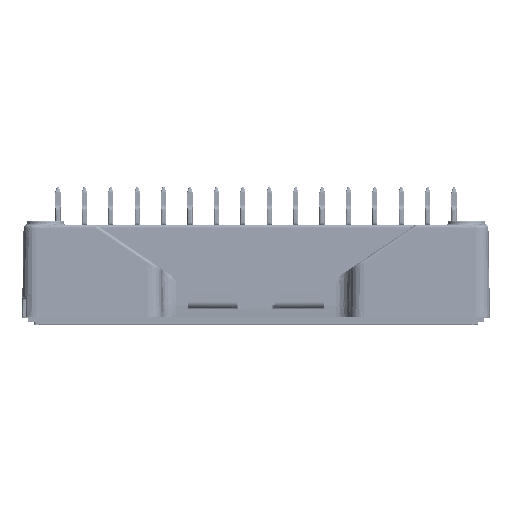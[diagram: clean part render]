
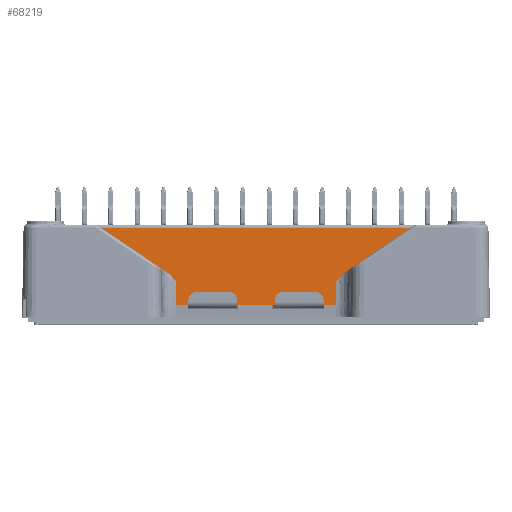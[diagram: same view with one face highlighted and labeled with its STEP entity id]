
A CAD part, top view. The second image highlights one B-rep face of the part: STEP entity #68219.
In plain terms, the highlighted planar face has unit normal (0, 0.018, 1).
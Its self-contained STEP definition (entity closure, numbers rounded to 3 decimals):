
#133 = CARTESIAN_POINT ( 'NONE',  ( 9.75, 4.954, 20.425 ) ) ;
#1476 = CARTESIAN_POINT ( 'NONE',  ( -9.65, 4.812, 20.427 ) ) ;
#1930 = CARTESIAN_POINT ( 'NONE',  ( 10.092, 5.41, 20.417 ) ) ;
#2482 = CARTESIAN_POINT ( 'NONE',  ( 9.65, 2.05, 20.475 ) ) ;
#3665 = VERTEX_POINT ( 'NONE', #46799 ) ;
#4573 = CARTESIAN_POINT ( 'NONE',  ( -10.288, 5.639, 20.413 ) ) ;
#5335 = ORIENTED_EDGE ( 'NONE', *, *, #70563, .T. ) ;
#7288 = CARTESIAN_POINT ( 'NONE',  ( -9.851, 5.097, 20.422 ) ) ;
#14706 = CARTESIAN_POINT ( 'NONE',  ( 9.884, 5.139, 20.421 ) ) ;
#16841 = DIRECTION ( 'NONE',  ( 1., 0., 0. ) ) ;
#18467 = CARTESIAN_POINT ( 'NONE',  ( -8.2, 2.05, 20.475 ) ) ;
#20443 = VECTOR ( 'NONE', #147587, 1000. ) ;
#20926 = CARTESIAN_POINT ( 'NONE',  ( -10.454, 5.81, 20.41 ) ) ;
#22003 = VERTEX_POINT ( 'NONE', #84598 ) ;
#23225 = CARTESIAN_POINT ( 'NONE',  ( -11.35, 2.05, 20.475 ) ) ;
#23854 = FACE_OUTER_BOUND ( 'NONE', #163211, .T. ) ;
#24125 = LINE ( 'NONE', #23225, #176903 ) ;
#26591 = CARTESIAN_POINT ( 'NONE',  ( 9.65, 499000., -8689.566 ) ) ;
#26977 = CARTESIAN_POINT ( 'NONE',  ( 9.65, 4.812, 20.427 ) ) ;
#32723 = EDGE_CURVE ( 'NONE', #46483, #158723, #87128, .T. ) ;
#32975 = CARTESIAN_POINT ( 'NONE',  ( -9.65, 499000., -8689.566 ) ) ;
#33825 = VERTEX_POINT ( 'NONE', #26977 ) ;
#33988 = VECTOR ( 'NONE', #154043, 1000. ) ;
#34197 = ORIENTED_EDGE ( 'NONE', *, *, #86785, .T. ) ;
#35525 = CARTESIAN_POINT ( 'NONE',  ( -10.139, 5.467, 20.416 ) ) ;
#36698 = B_SPLINE_CURVE_WITH_KNOTS ( 'NONE', 3,
 ( #125141, #133, #14706, #70407, #98686, #1930, #58521, #144161, #131407, #62104, #114157, #128717, #116839 ),
 .UNSPECIFIED., .F., .F.,
 ( 4, 1, 1, 1, 1, 1, 2, 2, 4 ),
 ( 0., 0.25, 0.375, 0.437, 0.469, 0.484, 0.492, 0.5, 1. ),
 .UNSPECIFIED. ) ;
#40236 = CARTESIAN_POINT ( 'NONE',  ( -11.35, 0.63, 20.5 ) ) ;
#46483 = VERTEX_POINT ( 'NONE', #111844 ) ;
#46541 = CARTESIAN_POINT ( 'NONE',  ( -10.123, 5.449, 20.416 ) ) ;
#46799 = CARTESIAN_POINT ( 'NONE',  ( 18.767, 11.437, 20.311 ) ) ;
#47900 = VERTEX_POINT ( 'NONE', #18467 ) ;
#52719 = CARTESIAN_POINT ( 'NONE',  ( -18.767, 11.437, 20.311 ) ) ;
#54157 = LINE ( 'NONE', #110711, #125949 ) ;
#55253 = CARTESIAN_POINT ( 'NONE',  ( -11.35, 2.05, 20.475 ) ) ;
#58521 = CARTESIAN_POINT ( 'NONE',  ( 10.105, 5.426, 20.416 ) ) ;
#59360 = CARTESIAN_POINT ( 'NONE',  ( -10.119, 5.443, 20.416 ) ) ;
#62059 = CARTESIAN_POINT ( 'NONE',  ( -10.16, 5.493, 20.415 ) ) ;
#62104 = CARTESIAN_POINT ( 'NONE',  ( 10.114, 5.437, 20.416 ) ) ;
#62956 = CARTESIAN_POINT ( 'NONE',  ( -9.65, 4.812, 20.427 ) ) ;
#65516 = LINE ( 'NONE', #52719, #20443 ) ;
#68219 = ADVANCED_FACE ( 'NONE', ( #23854 ), #165204, .T. ) ;
#68577 = LINE ( 'NONE', #26591, #125346 ) ;
#70407 = CARTESIAN_POINT ( 'NONE',  ( 10.01, 5.306, 20.418 ) ) ;
#70563 = EDGE_CURVE ( 'NONE', #3665, #150169, #71956, .T. ) ;
#71956 = LINE ( 'NONE', #127604, #33988 ) ;
#71996 = ORIENTED_EDGE ( 'NONE', *, *, #134084, .T. ) ;
#75096 = ORIENTED_EDGE ( 'NONE', *, *, #125016, .T. ) ;
#76632 = CARTESIAN_POINT ( 'NONE',  ( -10.203, 5.543, 20.414 ) ) ;
#76792 = DIRECTION ( 'NONE',  ( 0., -1., 0.017 ) ) ;
#77163 = AXIS2_PLACEMENT_3D ( 'NONE', #40236, #95942, #151526 ) ;
#84242 = DIRECTION ( 'NONE',  ( 1., 0., 0. ) ) ;
#84598 = CARTESIAN_POINT ( 'NONE',  ( -10.679, 5.981, 20.407 ) ) ;
#86785 = EDGE_CURVE ( 'NONE', #174299, #147852, #88703, .T. ) ;
#87128 = LINE ( 'NONE', #55253, #126135 ) ;
#88703 = LINE ( 'NONE', #32975, #168826 ) ;
#95313 = DIRECTION ( 'NONE',  ( 1., 0., 0. ) ) ;
#95942 = DIRECTION ( 'NONE',  ( 0., 0.017, 1. ) ) ;
#98331 = CARTESIAN_POINT ( 'NONE',  ( -18.767, 11.437, 20.311 ) ) ;
#98642 = LINE ( 'NONE', #154225, #114478 ) ;
#98686 = CARTESIAN_POINT ( 'NONE',  ( 10.066, 5.378, 20.417 ) ) ;
#100433 = DIRECTION ( 'NONE',  ( 0.829, 0.559, -0.01 ) ) ;
#100569 = ORIENTED_EDGE ( 'NONE', *, *, #118156, .T. ) ;
#101319 = CARTESIAN_POINT ( 'NONE',  ( -10.591, 5.922, 20.408 ) ) ;
#105315 = ORIENTED_EDGE ( 'NONE', *, *, #135629, .T. ) ;
#106199 = B_SPLINE_CURVE_WITH_KNOTS ( 'NONE', 3,
 ( #170583, #101319, #20926, #4573, #76632, #62059, #35525, #146821, #46541, #59360, #132273, #7288, #62956 ),
 .UNSPECIFIED., .F., .F.,
 ( 4, 1, 1, 1, 1, 1, 2, 2, 4 ),
 ( 0., 0.25, 0.375, 0.438, 0.469, 0.484, 0.492, 0.5, 1. ),
 .UNSPECIFIED. ) ;
#106673 = EDGE_CURVE ( 'NONE', #147852, #47900, #24125, .T. ) ;
#110711 = CARTESIAN_POINT ( 'NONE',  ( -11.35, 2.05, 20.475 ) ) ;
#111844 = CARTESIAN_POINT ( 'NONE',  ( 8.2, 2.05, 20.475 ) ) ;
#113235 = DIRECTION ( 'NONE',  ( 0., 1., -0.017 ) ) ;
#114157 = CARTESIAN_POINT ( 'NONE',  ( 10.315, 5.682, 20.412 ) ) ;
#114478 = VECTOR ( 'NONE', #100433, 1000. ) ;
#116839 = CARTESIAN_POINT ( 'NONE',  ( 10.679, 5.981, 20.407 ) ) ;
#118156 = EDGE_CURVE ( 'NONE', #47900, #46483, #54157, .T. ) ;
#119015 = EDGE_CURVE ( 'NONE', #157933, #3665, #98642, .T. ) ;
#125016 = EDGE_CURVE ( 'NONE', #22003, #174299, #106199, .T. ) ;
#125141 = CARTESIAN_POINT ( 'NONE',  ( 9.65, 4.812, 20.427 ) ) ;
#125346 = VECTOR ( 'NONE', #113235, 1000. ) ;
#125949 = VECTOR ( 'NONE', #84242, 1000. ) ;
#126135 = VECTOR ( 'NONE', #16841, 1000. ) ;
#127604 = CARTESIAN_POINT ( 'NONE',  ( -11.35, 11.437, 20.311 ) ) ;
#127733 = ORIENTED_EDGE ( 'NONE', *, *, #106673, .T. ) ;
#128717 = CARTESIAN_POINT ( 'NONE',  ( 10.502, 5.862, 20.409 ) ) ;
#131407 = CARTESIAN_POINT ( 'NONE',  ( 10.113, 5.437, 20.416 ) ) ;
#132273 = CARTESIAN_POINT ( 'NONE',  ( -10.007, 5.307, 20.418 ) ) ;
#134084 = EDGE_CURVE ( 'NONE', #158723, #33825, #68577, .T. ) ;
#135629 = EDGE_CURVE ( 'NONE', #150169, #22003, #65516, .T. ) ;
#144161 = CARTESIAN_POINT ( 'NONE',  ( 10.11, 5.432, 20.416 ) ) ;
#146821 = CARTESIAN_POINT ( 'NONE',  ( -10.129, 5.456, 20.416 ) ) ;
#147587 = DIRECTION ( 'NONE',  ( 0.829, -0.559, 0.01 ) ) ;
#147852 = VERTEX_POINT ( 'NONE', #148673 ) ;
#148673 = CARTESIAN_POINT ( 'NONE',  ( -9.65, 2.05, 20.475 ) ) ;
#150169 = VERTEX_POINT ( 'NONE', #98331 ) ;
#151526 = DIRECTION ( 'NONE',  ( 0., -1., 0.017 ) ) ;
#154043 = DIRECTION ( 'NONE',  ( -1., 0., 0. ) ) ;
#154225 = CARTESIAN_POINT ( 'NONE',  ( 10.679, 5.981, 20.407 ) ) ;
#157933 = VERTEX_POINT ( 'NONE', #179924 ) ;
#158723 = VERTEX_POINT ( 'NONE', #2482 ) ;
#163211 = EDGE_LOOP ( 'NONE', ( #105315, #75096, #34197, #127733, #100569, #173091, #71996, #164184, #172942, #5335 ) ) ;
#164184 = ORIENTED_EDGE ( 'NONE', *, *, #177200, .T. ) ;
#165204 = PLANE ( 'NONE',  #77163 ) ;
#168826 = VECTOR ( 'NONE', #76792, 1000. ) ;
#170583 = CARTESIAN_POINT ( 'NONE',  ( -10.679, 5.981, 20.407 ) ) ;
#172942 = ORIENTED_EDGE ( 'NONE', *, *, #119015, .T. ) ;
#173091 = ORIENTED_EDGE ( 'NONE', *, *, #32723, .T. ) ;
#174299 = VERTEX_POINT ( 'NONE', #1476 ) ;
#176903 = VECTOR ( 'NONE', #95313, 1000. ) ;
#177200 = EDGE_CURVE ( 'NONE', #33825, #157933, #36698, .T. ) ;
#179924 = CARTESIAN_POINT ( 'NONE',  ( 10.679, 5.981, 20.407 ) ) ;
